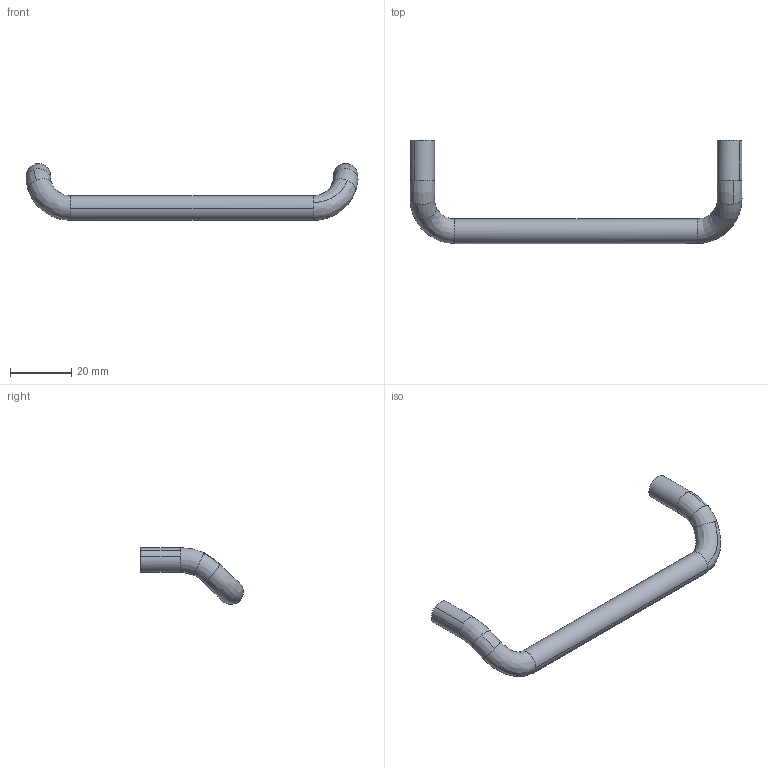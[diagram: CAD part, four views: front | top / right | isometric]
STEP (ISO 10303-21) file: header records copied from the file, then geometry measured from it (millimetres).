
FILE_DESCRIPTION((''),'2;1');
FILE_NAME('','2005-10-07T12:03:23',(''),(''),'','CADfix','');
FILE_SCHEMA(('AUTOMOTIVE_DESIGN'));
Length unit declared in the file: millimetre
Products named in the file (1): pull
Bounding box: 108 x 33.5 x 18.5 mm (x, y, z)
Volume: 7455.8 mm3; surface area: 4331.8 mm2
Topology: 1 solids, 1 shells, 26 faces, 86 edges, 64 vertices
Faces by surface type: bspline 26
Entity records: 1709 total; most frequent: CARTESIAN_POINT 1225, ORIENTED_EDGE 172, EDGE_CURVE 86, VERTEX_POINT 64, B_SPLINE_CURVE_WITH_KNOTS 36, EDGE_LOOP 28, FACE_OUTER_BOUND 26, ADVANCED_FACE 26
